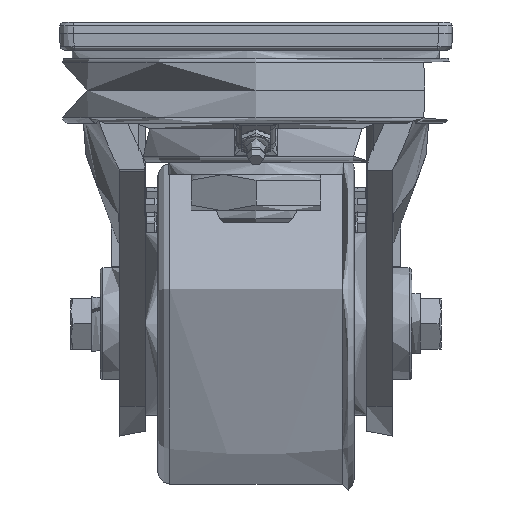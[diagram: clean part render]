
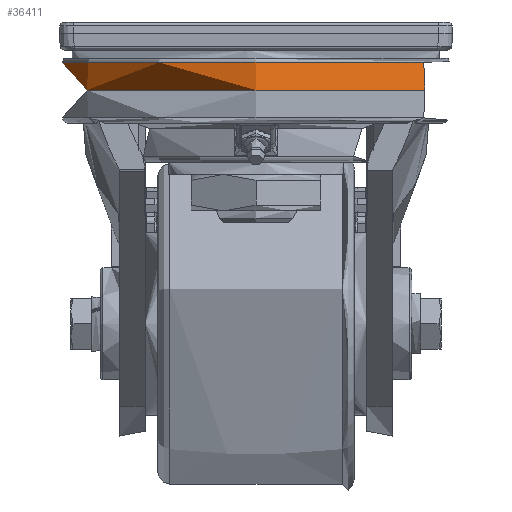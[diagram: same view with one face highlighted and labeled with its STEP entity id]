
A CAD part, left-side view. The second image highlights one B-rep face of the part: STEP entity #36411.
In plain terms, the highlighted conical face has half-angle 3 degrees and reference radius 69.242 mm.
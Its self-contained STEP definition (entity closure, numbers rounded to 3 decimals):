
#83=CONICAL_SURFACE('',#38924,69.242,0.052);
#4273=LINE('',#64925,#7231);
#7231=VECTOR('',#45574,69.242);
#10050=FACE_OUTER_BOUND('',#12204,.T.);
#12204=EDGE_LOOP('',(#30639,#30640,#30641,#30642,#30643,#30644,#30645));
#13682=CIRCLE('',#38920,68.984);
#13683=CIRCLE('',#38921,68.984);
#13684=CIRCLE('',#38922,68.984);
#13686=CIRCLE('',#38925,69.5);
#13687=CIRCLE('',#38926,69.5);
#16527=VERTEX_POINT('',#64913);
#16528=VERTEX_POINT('',#64914);
#16529=VERTEX_POINT('',#64916);
#16530=VERTEX_POINT('',#64921);
#16531=VERTEX_POINT('',#64922);
#21436=EDGE_CURVE('',#16527,#16528,#13682,.T.);
#21437=EDGE_CURVE('',#16529,#16527,#13683,.T.);
#21438=EDGE_CURVE('',#16528,#16529,#13684,.T.);
#21440=EDGE_CURVE('',#16530,#16531,#13686,.T.);
#21441=EDGE_CURVE('',#16531,#16530,#13687,.T.);
#21442=EDGE_CURVE('',#16531,#16529,#4273,.T.);
#30639=ORIENTED_EDGE('',*,*,#21440,.F.);
#30640=ORIENTED_EDGE('',*,*,#21441,.F.);
#30641=ORIENTED_EDGE('',*,*,#21442,.T.);
#30642=ORIENTED_EDGE('',*,*,#21437,.T.);
#30643=ORIENTED_EDGE('',*,*,#21436,.T.);
#30644=ORIENTED_EDGE('',*,*,#21438,.T.);
#30645=ORIENTED_EDGE('',*,*,#21442,.F.);
#36411=ADVANCED_FACE('',(#10050),#83,.T.);
#38920=AXIS2_PLACEMENT_3D('',#64915,#45560,#45561);
#38921=AXIS2_PLACEMENT_3D('',#64917,#45562,#45563);
#38922=AXIS2_PLACEMENT_3D('',#64918,#45564,#45565);
#38924=AXIS2_PLACEMENT_3D('',#64920,#45568,#45569);
#38925=AXIS2_PLACEMENT_3D('',#64923,#45570,#45571);
#38926=AXIS2_PLACEMENT_3D('',#64924,#45572,#45573);
#45560=DIRECTION('center_axis',(0.,0.,
-1.));
#45561=DIRECTION('ref_axis',(-1.,0.,0.));
#45562=DIRECTION('center_axis',(0.,0.,
-1.));
#45563=DIRECTION('ref_axis',(-1.,0.,0.));
#45564=DIRECTION('center_axis',(0.,0.,
-1.));
#45565=DIRECTION('ref_axis',(-1.,0.,0.));
#45568=DIRECTION('center_axis',(0.,0.,
-1.));
#45569=DIRECTION('ref_axis',(-1.,0.,0.));
#45570=DIRECTION('center_axis',(0.,0.,
-1.));
#45571=DIRECTION('ref_axis',(-1.,0.,0.));
#45572=DIRECTION('center_axis',(0.,0.,
-1.));
#45573=DIRECTION('ref_axis',(-1.,0.,0.));
#45574=DIRECTION('',(-0.052,0.,0.999));
#64913=CARTESIAN_POINT('',(-68.984,0.,-1.395));
#64914=CARTESIAN_POINT('',(0.,68.984,-1.395));
#64915=CARTESIAN_POINT('Origin',(0.,0.,
-1.395));
#64916=CARTESIAN_POINT('',(68.984,0.,-1.395));
#64917=CARTESIAN_POINT('Origin',(0.,0.,
-1.395));
#64918=CARTESIAN_POINT('Origin',(0.,0.,
-1.395));
#64920=CARTESIAN_POINT('Origin',(0.,0.,
-6.323));
#64921=CARTESIAN_POINT('',(-69.5,0.,-11.25));
#64922=CARTESIAN_POINT('',(69.5,0.,-11.25));
#64923=CARTESIAN_POINT('Origin',(0.,0.,
-11.25));
#64924=CARTESIAN_POINT('Origin',(0.,0.,
-11.25));
#64925=CARTESIAN_POINT('',(69.242,0.,-6.323));
